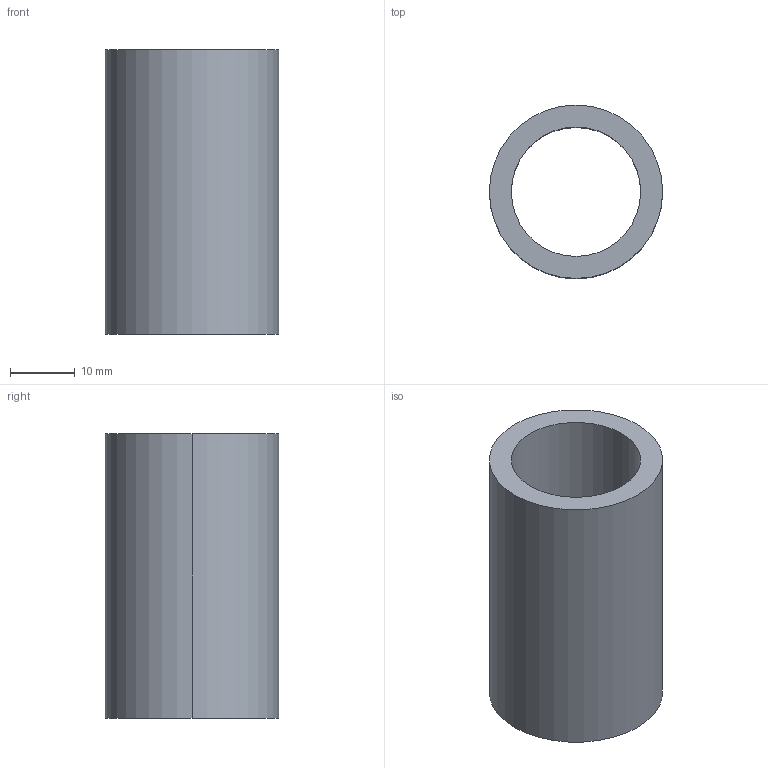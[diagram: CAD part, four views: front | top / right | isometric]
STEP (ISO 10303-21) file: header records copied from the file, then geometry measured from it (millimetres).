
FILE_DESCRIPTION (( 'STEP AP214' ), '1' );
FILE_NAME ('bush.STEP', '2018-04-22T04:25:16', ( '' ), ( '' ), 'SwSTEP 2.0', 'SolidWorks 2018', '' );
FILE_SCHEMA (( 'AUTOMOTIVE_DESIGN' ));
Length unit declared in the file: millimetre
Products named in the file (1): bush
Bounding box: 26.8 x 26.8 x 44 mm (x, y, z)
Volume: 10997.6 mm3; surface area: 6969.1 mm2
Topology: 1 solids, 1 shells, 6 faces, 12 edges, 8 vertices
Faces by surface type: cylinder 4, plane 2
Entity records: 202 total; most frequent: DIRECTION 34, CARTESIAN_POINT 27, ORIENTED_EDGE 24, AXIS2_PLACEMENT_3D 15, EDGE_CURVE 12, CIRCLE 8, EDGE_LOOP 8, VERTEX_POINT 8
